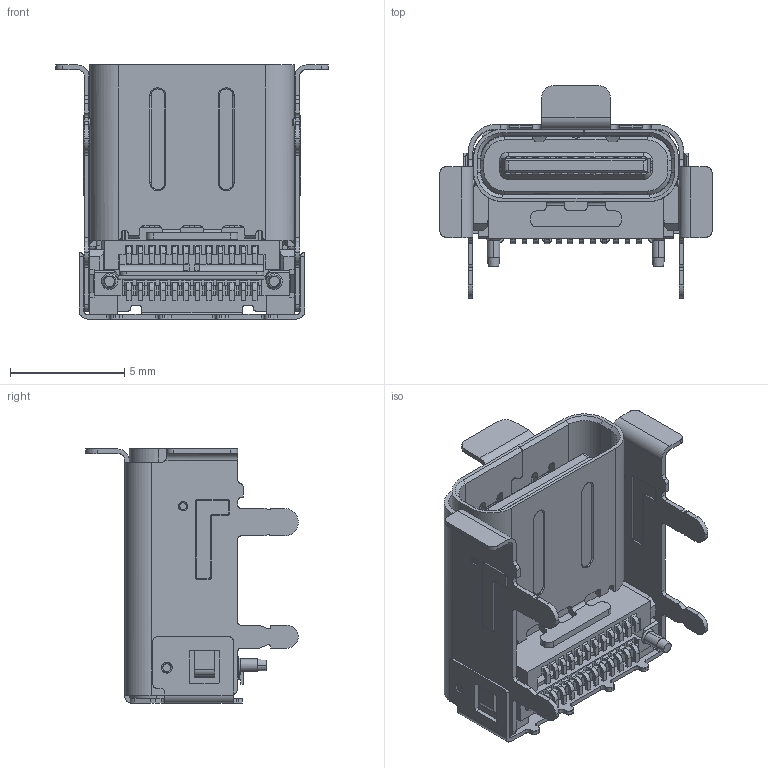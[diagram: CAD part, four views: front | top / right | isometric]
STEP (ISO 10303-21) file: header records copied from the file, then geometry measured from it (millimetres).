
FILE_DESCRIPTION((' '),'2;1');
FILE_NAME( 'U5411-24PN3.4H11.1L.stp', '2026-05-09T10:43:31', (' '), ('--- ---'), ' V2026.1 Dec 31 2025', ' 2026 (c)', ' ');
FILE_SCHEMA(('AP242_MANAGED_MODEL_BASED_3D_ENGINEERING_MIM_LF { 1 0 10303 442 1 1 4 }'));
Length unit declared in the file: millimetre
Products named in the file (4): OUT_SHELL.2.stp; SHELL(1).stp.stp; U5411-24PN3.4H11.1L.stp; U5411-24PN3.4H11.1L
Assembly tree (3 placements, depth 4):
  U5411-24PN3.4H11.1L
    U5411-24PN3.4H11.1L.stp
      SHELL(1).stp.stp
        OUT_SHELL.2.stp
Bounding box: 11.9 x 9.28 x 11.1 mm (x, y, z)
Surface area: 1300.2 mm2
Topology: 30 solids, 43 shells, 2322 faces, 6870 edges, 4473 vertices
Faces by surface type: plane 1715, cylinder 519, torus 56, cone 28, bspline 4
Entity records: 79642 total; most frequent: CARTESIAN_POINT 21257, ORIENTED_EDGE 13596, DIRECTION 9629, EDGE_CURVE 6870, VECTOR 4975, LINE 4975, VERTEX_POINT 4473, EDGE_LOOP 2399
